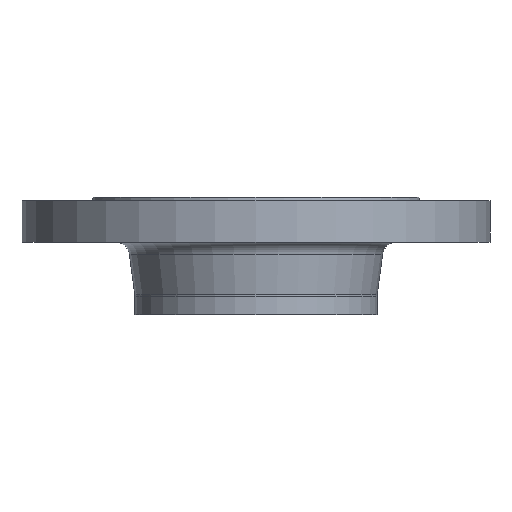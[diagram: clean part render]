
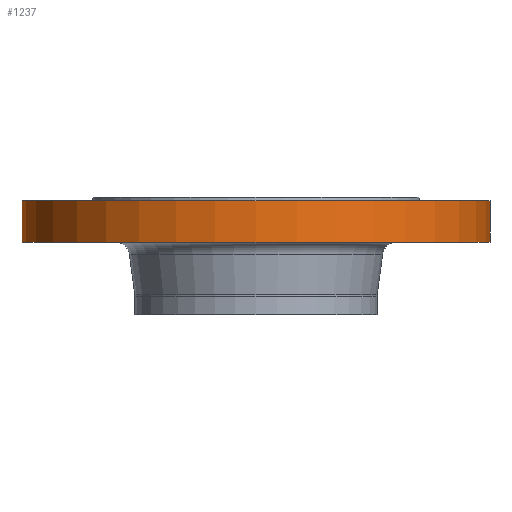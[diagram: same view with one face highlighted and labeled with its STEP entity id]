
A CAD part, front view. The second image highlights one B-rep face of the part: STEP entity #1237.
In plain terms, the highlighted cylindrical face has radius 135 mm (diameter 270 mm), a partial arc.
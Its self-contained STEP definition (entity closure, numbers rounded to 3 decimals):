
#6 = EDGE_CURVE ( 'NONE', #512, #617, #409, .T. ) ;
#20 = CYLINDRICAL_SURFACE ( 'NONE', #1013, 135. ) ;
#22 = DIRECTION ( 'NONE',  ( 0., 0., -1. ) ) ;
#61 = ORIENTED_EDGE ( 'NONE', *, *, #101, .T. ) ;
#67 = ORIENTED_EDGE ( 'NONE', *, *, #6, .F. ) ;
#101 = EDGE_CURVE ( 'NONE', #512, #552, #153, .T. ) ;
#153 = LINE ( 'NONE', #543, #1092 ) ;
#265 = DIRECTION ( 'NONE',  ( 0., 0., -1. ) ) ;
#301 = VECTOR ( 'NONE', #1093, 1000. ) ;
#319 = EDGE_LOOP ( 'NONE', ( #781, #67, #61, #450 ) ) ;
#324 = LINE ( 'NONE', #702, #301 ) ;
#360 = CARTESIAN_POINT ( 'NONE',  ( 135., 0., -2. ) ) ;
#389 = AXIS2_PLACEMENT_3D ( 'NONE', #1137, #265, #649 ) ;
#409 = CIRCLE ( 'NONE', #1121, 135. ) ;
#419 = CARTESIAN_POINT ( 'NONE',  ( 0., 0., -78. ) ) ;
#422 = DIRECTION ( 'NONE',  ( -1., 0., 0. ) ) ;
#450 = ORIENTED_EDGE ( 'NONE', *, *, #632, .T. ) ;
#458 = CARTESIAN_POINT ( 'NONE',  ( -135., 0., -2. ) ) ;
#512 = VERTEX_POINT ( 'NONE', #723 ) ;
#543 = CARTESIAN_POINT ( 'NONE',  ( 135., 0., -78. ) ) ;
#552 = VERTEX_POINT ( 'NONE', #360 ) ;
#617 = VERTEX_POINT ( 'NONE', #1033 ) ;
#632 = EDGE_CURVE ( 'NONE', #552, #1084, #922, .T. ) ;
#649 = DIRECTION ( 'NONE',  ( -1., 0., 0. ) ) ;
#702 = CARTESIAN_POINT ( 'NONE',  ( -135., 0., -78. ) ) ;
#723 = CARTESIAN_POINT ( 'NONE',  ( 135., 0., -26. ) ) ;
#781 = ORIENTED_EDGE ( 'NONE', *, *, #1242, .F. ) ;
#790 = DIRECTION ( 'NONE',  ( 0., 0., 1. ) ) ;
#889 = FACE_OUTER_BOUND ( 'NONE', #319, .T. ) ;
#891 = CARTESIAN_POINT ( 'NONE',  ( 0., 0., -26. ) ) ;
#917 = DIRECTION ( 'NONE',  ( 0., 0., 1. ) ) ;
#922 = CIRCLE ( 'NONE', #389, 135. ) ;
#1013 = AXIS2_PLACEMENT_3D ( 'NONE', #419, #790, #1197 ) ;
#1033 = CARTESIAN_POINT ( 'NONE',  ( -135., 0., -26. ) ) ;
#1084 = VERTEX_POINT ( 'NONE', #458 ) ;
#1092 = VECTOR ( 'NONE', #917, 1000. ) ;
#1093 = DIRECTION ( 'NONE',  ( 0., 0., 1. ) ) ;
#1121 = AXIS2_PLACEMENT_3D ( 'NONE', #891, #22, #422 ) ;
#1137 = CARTESIAN_POINT ( 'NONE',  ( 0., 0., -2. ) ) ;
#1197 = DIRECTION ( 'NONE',  ( 1., 0., 0. ) ) ;
#1237 = ADVANCED_FACE ( 'NONE', ( #889 ), #20, .T. ) ;
#1242 = EDGE_CURVE ( 'NONE', #617, #1084, #324, .T. ) ;
